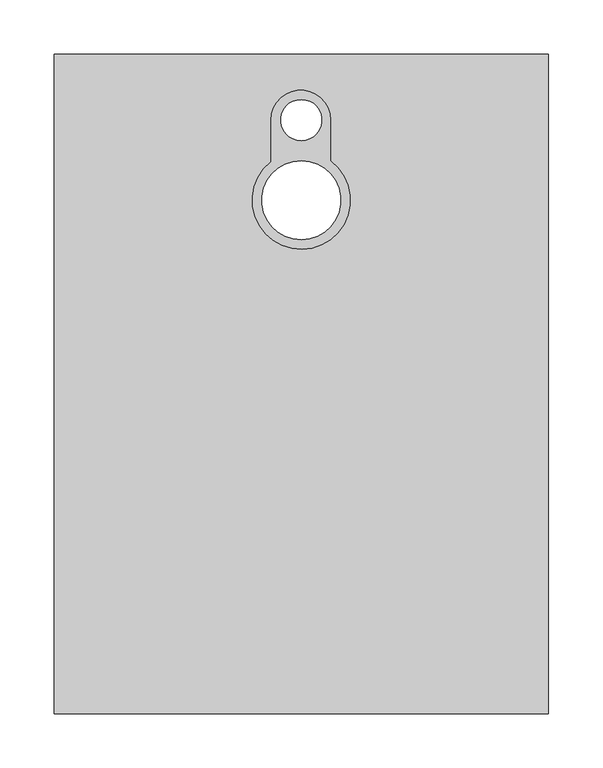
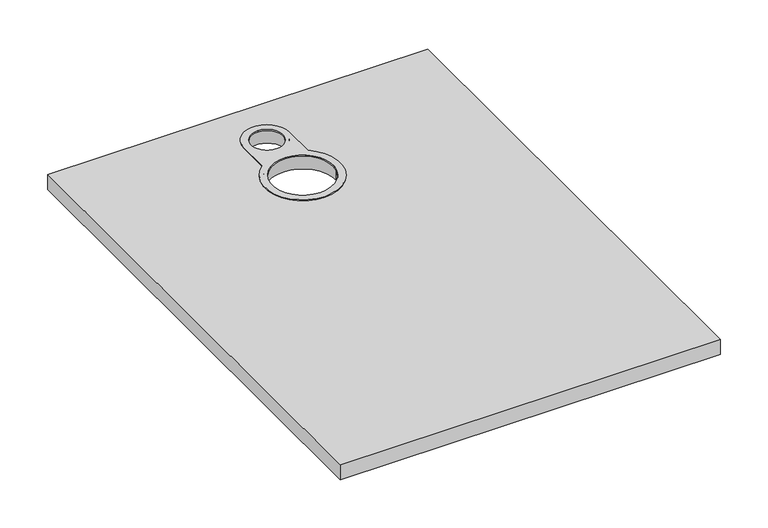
"""IFC4 building model written with IfcOpenShell, lengths in millimetres: furniture geometry, Geiger_GeigerOneCasegoods_CredenzaTopLowHeightWithLegGrommet : Veneer 18Wx 24Dx 0.75H."""

import ifcopenshell
import ifcopenshell.guid

model = None  # the IFC model being written
_history = None  # IfcOwnerHistory: only IFC2X3 demands one
_inside = {}  # id of a spatial element -> (the spatial element, [elements in it])
_under = {}  # id of a project, library or spatial element -> (it, [spatial elements below it])
_declared = {}  # id of a project -> (the project, [libraries it declares])
_typed = {}  # id of a type object -> (the type object, [elements of that type])
_made_of = {}  # id of a material, layer set ... -> (it, [elements and type objects made of it])


def new_model(schema):
    """Start an empty IFC model of exactly this schema.

    Asked for "IFC4X3", IfcOpenShell would pick the latest addendum, in which some entities
    have other attributes; the version numbers below select the first issue.
    IFC2X3 requires an IfcOwnerHistory on every rooted entity: one is made here for all.
    """
    global model, _history
    if schema == "IFC4X3":
        model = ifcopenshell.file(schema_version=(4, 3, 0, 0))
    else:
        model = ifcopenshell.file(schema=schema)
    _inside.clear()
    _under.clear()
    _declared.clear()
    _typed.clear()
    _made_of.clear()
    _history = None
    if model.schema == "IFC2X3":
        org = make("IfcOrganization", Name="unknown")
        user = make(
            "IfcPersonAndOrganization",
            ThePerson=make("IfcPerson", FamilyName="unknown"),
            TheOrganization=org,
        )
        app = make(
            "IfcApplication",
            ApplicationDeveloper=org,
            Version="unknown",
            ApplicationFullName="unknown",
            ApplicationIdentifier="unknown",
        )
        _history = make(
            "IfcOwnerHistory",
            OwningUser=user,
            OwningApplication=app,
            ChangeAction="ADDED",
            CreationDate=0,
        )
    return model


def make(cls, **values):
    """One entity of the class cls with the attributes given. An attribute that is None is left unset."""
    return model.create_entity(
        cls, **{name: value for name, value in values.items() if value is not None}
    )


def rooted(cls, **values):
    """An entity with a GlobalId (a new one), such as an element, a storey or a relation."""
    return make(cls, GlobalId=ifcopenshell.guid.new(), OwnerHistory=_history, **values)


def si_unit(unit_type, name, prefix=None):
    """IfcSIUnit, for example si_unit("LENGTHUNIT", "METRE", prefix="MILLI")."""
    return make("IfcSIUnit", UnitType=unit_type, Prefix=prefix, Name=name)


def assignment(units):
    """IfcUnitAssignment: the units of a project."""
    return None if units is None else make("IfcUnitAssignment", Units=units)


def point(xyz):
    """IfcCartesianPoint."""
    return None if xyz is None else make("IfcCartesianPoint", Coordinates=xyz)


def direction(xyz):
    """IfcDirection."""
    return None if xyz is None else make("IfcDirection", DirectionRatios=xyz)


def frame(location, z_axis=None, x_axis=None):
    """IfcAxis2Placement3D, a coordinate frame: its origin and axes. An axis left out is left unset."""
    return make(
        "IfcAxis2Placement3D",
        Location=point(location),
        Axis=direction(z_axis),
        RefDirection=direction(x_axis),
    )


def frame_2d(location, x_axis=None):
    """IfcAxis2Placement2D, a coordinate frame in the plane: its origin and x axis."""
    return make(
        "IfcAxis2Placement2D", Location=point(location), RefDirection=direction(x_axis)
    )


def origin():
    """The frame at (0, 0, 0) with its axes left unset."""
    return frame((0.0, 0.0, 0.0))


def origin_with_axes():
    """The frame at (0, 0, 0) with the z axis (0, 0, 1) and the x axis (1, 0, 0) written out."""
    return frame((0.0, 0.0, 0.0), z_axis=(0.0, 0.0, 1.0), x_axis=(1.0, 0.0, 0.0))


def place(relative_to, where):
    """IfcLocalPlacement: puts the frame where relative to a parent placement (None: the world)."""
    return make(
        "IfcLocalPlacement", PlacementRelTo=relative_to, RelativePlacement=where
    )


def context(
    kind, dimensions, precision=None, world=None, true_north=None, identifier=None
):
    """IfcGeometricRepresentationContext, for example the 3D "Model" context."""
    return make(
        "IfcGeometricRepresentationContext",
        ContextIdentifier=identifier,
        ContextType=kind,
        CoordinateSpaceDimension=dimensions,
        Precision=precision,
        WorldCoordinateSystem=world,
        TrueNorth=true_north,
    )


def project(units=None, contexts=None):
    """IfcProject with its units and contexts."""
    return rooted(
        "IfcProject",
        Name="project",
        RepresentationContexts=contexts,
        UnitsInContext=assignment(units),
    )


def spatial(cls, under=None, at=None, **own):
    """A site, building, storey or space (cls), placed at a placement, below another one or the project."""
    s = rooted(cls, ObjectPlacement=at, **own)
    if under is not None:
        _under.setdefault(under.id(), (under, []))[1].append(s)
    return s


def polyline(points):
    """IfcPolyline through the points."""
    return make("IfcPolyline", Points=[point(p) for p in points])


def circle_curve(where, radius):
    """IfcCircle in the frame where."""
    return make("IfcCircle", Position=where, Radius=radius)


def trimmed(basis, trim1, trim2, sense, master):
    """IfcTrimmedCurve: the piece of a basis curve between two trims."""
    return make(
        "IfcTrimmedCurve",
        BasisCurve=basis,
        Trim1=trim1,
        Trim2=trim2,
        SenseAgreement=sense,
        MasterRepresentation=master,
    )


def segment(curve, same_sense, transition):
    """IfcCompositeCurveSegment."""
    return make(
        "IfcCompositeCurveSegment",
        Transition=transition,
        SameSense=same_sense,
        ParentCurve=curve,
    )


def composite_curve(segments, self_intersect=None):
    """IfcCompositeCurve: segments joined end to end."""
    return make("IfcCompositeCurve", Segments=segments, SelfIntersect=self_intersect)


def outline(outer, holes=None, kind="AREA"):
    """IfcArbitraryClosedProfileDef: a profile drawn as a closed curve; with holes, ...WithVoids."""
    if holes is None:
        return make("IfcArbitraryClosedProfileDef", ProfileType=kind, OuterCurve=outer)
    return make(
        "IfcArbitraryProfileDefWithVoids",
        ProfileType=kind,
        OuterCurve=outer,
        InnerCurves=holes,
    )


def extrude(swept, where, along, depth):
    """IfcExtrudedAreaSolid: the profile swept, set in the frame where, extruded along a direction by depth."""
    return make(
        "IfcExtrudedAreaSolid",
        SweptArea=swept,
        Position=where,
        ExtrudedDirection=direction(along),
        Depth=depth,
    )


def shape(context_of_items, identifier, shape_type, items):
    """IfcShapeRepresentation: the items that make up one representation, for example the "Body"."""
    return make(
        "IfcShapeRepresentation",
        ContextOfItems=context_of_items,
        RepresentationIdentifier=identifier,
        RepresentationType=shape_type,
        Items=items,
    )


def source(mapping_origin, context_of_items, identifier, shape_type, items):
    """IfcRepresentationMap: a shape defined once, which mapped items show again and again."""
    return make(
        "IfcRepresentationMap",
        MappingOrigin=mapping_origin,
        MappedRepresentation=shape(context_of_items, identifier, shape_type, items),
    )


def transform(
    local_origin,
    x_axis=None,
    y_axis=None,
    z_axis=None,
    scale=None,
    scale2=None,
    scale3=None,
    uniform=True,
):
    """IfcCartesianTransformationOperator3D, or its non-uniform kind. x_axis, y_axis, z_axis: its Axis1, 2, 3."""
    if uniform:
        return make(
            "IfcCartesianTransformationOperator3D",
            Axis1=direction(x_axis),
            Axis2=direction(y_axis),
            LocalOrigin=point(local_origin),
            Scale=scale,
            Axis3=direction(z_axis),
        )
    return make(
        "IfcCartesianTransformationOperator3DnonUniform",
        Axis1=direction(x_axis),
        Axis2=direction(y_axis),
        LocalOrigin=point(local_origin),
        Scale=scale,
        Axis3=direction(z_axis),
        Scale2=scale2,
        Scale3=scale3,
    )


def mapped(mapping_source, mapping_target):
    """IfcMappedItem: shows the shape of a source again, moved by a transform."""
    return make(
        "IfcMappedItem", MappingSource=mapping_source, MappingTarget=mapping_target
    )


def made_of(thing, what):
    """Note that an element or type object is made of a material, layer set ...; save() writes the relation."""
    if what is not None:
        _made_of.setdefault(what.id(), (what, []))[1].append(thing)
    return thing


def element(
    cls,
    number,
    at=None,
    inside=None,
    cuts=None,
    type_object=None,
    material=None,
    context=None,
    identifier="Body",
    shape_type=None,
    held_by="IfcProductDefinitionShape",
    body=None,
    shapes=None,
    **own,
):
    """One element of the class cls, such as IfcWall. Its Tag is "e" and its number.

    at: its placement. inside: the storey or other place that contains it. cuts: it is an
    opening in that element (IfcRelVoidsElement). A single representation is given by context,
    identifier, shape_type and body (its items); several are given by shapes. held_by: the class
    of the entity that holds the representations. save() writes the other relations.
    """
    e = rooted(cls, Tag="e%d" % number, ObjectPlacement=at, **own)
    if body is not None:
        shapes = [shape(context, identifier, shape_type, body)]
    if shapes is not None:
        e.Representation = make(held_by, Representations=shapes)
    if inside is not None:
        _inside.setdefault(inside.id(), (inside, []))[1].append(e)
    if cuts is not None:
        rooted(
            "IfcRelVoidsElement", RelatingBuildingElement=cuts, RelatedOpeningElement=e
        )
    if type_object is not None:
        _typed.setdefault(type_object.id(), (type_object, []))[1].append(e)
    return made_of(e, material)


def aggregate(whole, parts):
    """IfcRelAggregates: a whole, such as a stair, and the parts it consists of."""
    return rooted("IfcRelAggregates", RelatingObject=whole, RelatedObjects=parts)


def save(model, path):
    """Write the relations noted so far, then the file.

    IfcRelAggregates (storeys below a building ...), IfcRelContainedInSpatialStructure (elements
    in a storey), IfcRelDefinesByType, IfcRelAssociatesMaterial and IfcRelDeclares: one each for
    every whole, place, type object, material and project.
    """
    for whole, parts in _under.values():
        aggregate(whole, parts)
    for where, things in _inside.values():
        rooted(
            "IfcRelContainedInSpatialStructure",
            RelatedElements=things,
            RelatingStructure=where,
        )
    for kind, things in _typed.values():
        rooted("IfcRelDefinesByType", RelatedObjects=things, RelatingType=kind)
    for what, things in _made_of.values():
        rooted("IfcRelAssociatesMaterial", RelatedObjects=things, RelatingMaterial=what)
    for by, libraries in _declared.values():
        rooted("IfcRelDeclares", RelatingContext=by, RelatedDefinitions=libraries)
    model.write(path)


def furniture_d3c6f52b(model_context):
    return source(origin(), model_context, "Body", "SweptSolid", [
        extrude(outline(polyline([(457.2, 0.0), (457.2, -609.6), (0.0, -609.6), (0.0, 0.0), (457.2, 0.0)]), holes=[composite_curve([segment(trimmed(circle_curve(frame_2d((228.6, -61.000002)), 23.1477449), [point((205.4522551, -61.000002))], [point((251.7477449, -61.000002))], True, "CARTESIAN"), True, "CONTINUOUS"), segment(trimmed(circle_curve(frame_2d((228.6, -61.000002)), 23.1477449), [point((251.7477449, -61.000002))], [point((205.4522551, -61.000002))], True, "CARTESIAN"), True, "CONTINUOUS")], self_intersect=False), composite_curve([segment(trimmed(circle_curve(frame_2d((228.6, -135.0057226)), 40.382326), [point((188.217674, -135.0057226))], [point((268.982326, -135.0057226))], True, "CARTESIAN"), True, "CONTINUOUS"), segment(trimmed(circle_curve(frame_2d((228.6, -135.0057226)), 40.382326), [point((268.982326, -135.0057226))], [point((188.217674, -135.0057226))], True, "CARTESIAN"), True, "CONTINUOUS")], self_intersect=False)]), origin_with_axes(), (0.0, 0.0, 1.0), 19.05),
        extrude(outline(composite_curve([segment(trimmed(circle_curve(frame_2d((228.1337167, -60.9055219)), 27.5), [point((200.6337167, -60.9055219))], [point((255.6337167, -60.9055219))], False, "CARTESIAN"), True, "CONTINUOUS"), segment(polyline([(255.6337167, -60.9055219), (255.6337167, -98.6677415)]), True, "CONTINUOUS"), segment(trimmed(circle_curve(frame_2d((228.6, -135.0057226)), 45.2909561), [point((255.6337167, -98.6677415))], [point((200.6337167, -99.3804829))], False, "CARTESIAN"), True, "CONTINUOUS"), segment(polyline([(200.6337167, -99.3804829), (200.6337167, -60.9055219)]), True, "CONTINUOUS")], self_intersect=False), holes=[composite_curve([segment(trimmed(circle_curve(frame_2d((228.6, -61.000002)), 18.9999985), [point((228.6, -42.0000035))], [point((228.6, -80.0000005))], True, "CARTESIAN"), True, "CONTINUOUS"), segment(trimmed(circle_curve(frame_2d((228.6, -61.000002)), 18.9999985), [point((228.6, -80.0000005))], [point((228.6, -42.0000035))], True, "CARTESIAN"), True, "CONTINUOUS")], self_intersect=False), composite_curve([segment(trimmed(circle_curve(frame_2d((228.6, -135.0057226)), 36.4999999), [point((228.6, -98.5057227))], [point((228.6, -171.5057224))], True, "CARTESIAN"), True, "CONTINUOUS"), segment(trimmed(circle_curve(frame_2d((228.6, -135.0057226)), 36.4999999), [point((228.6, -171.5057224))], [point((228.6, -98.5057227))], True, "CARTESIAN"), True, "CONTINUOUS")], self_intersect=False)]), frame((0.0, 0.0, 19.05), z_axis=(0.0, 0.0, 1.0), x_axis=(1.0, 0.0, 0.0)), (0.0, 0.0, 1.0), 1.55),
    ])


if __name__ == "__main__":
    model = new_model("IFC4")
    model_context = context("Model", 3, world=origin())
    ifc_project = project(units=[si_unit("LENGTHUNIT", "METRE", prefix="MILLI")], contexts=[model_context])
    site = spatial("IfcSite", under=ifc_project)
    building = spatial("IfcBuilding", under=site)
    placement = place(None, origin())
    furniture_shape = furniture_d3c6f52b(model_context)
    element("IfcFurniture", 1, ObjectType="Geiger_GeigerOneCasegoods_CredenzaTopLowHeightWithLegGrommet : Veneer 18Wx 24Dx 0.75H", at=placement, inside=building, context=model_context, shape_type="MappedRepresentation", body=[
        mapped(furniture_shape, transform((0.0, 0.0, 0.0), x_axis=(1.0, 0.0, 0.0), y_axis=(0.0, 1.0, 0.0), z_axis=(0.0, 0.0, 1.0))),
    ])
    save(model, "model.ifc")
